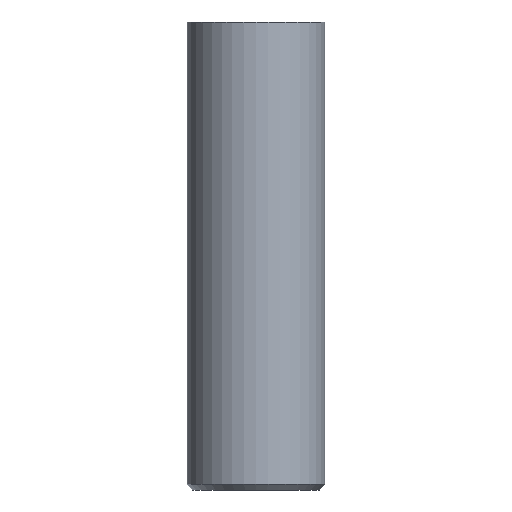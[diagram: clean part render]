
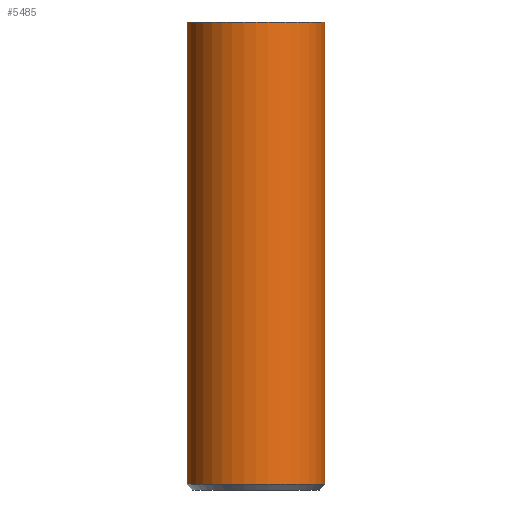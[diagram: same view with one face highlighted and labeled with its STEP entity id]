
A CAD part, front view. The second image highlights one B-rep face of the part: STEP entity #5485.
In plain terms, the highlighted cylindrical face has radius 2.5 mm (diameter 5 mm), a full revolution.
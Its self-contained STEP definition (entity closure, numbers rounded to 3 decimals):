
#783=CYLINDRICAL_SURFACE('',#5580,2.5);
#1073=FACE_OUTER_BOUND('',#1392,.T.);
#1392=EDGE_LOOP('',(#5131,#5132,#5133,#5134));
#1750=LINE('',#11625,#2114);
#2114=VECTOR('',#6079,2.5);
#2141=CIRCLE('',#5572,2.5);
#2143=CIRCLE('',#5579,2.5);
#2683=VERTEX_POINT('',#11612);
#2685=VERTEX_POINT('',#11621);
#3503=EDGE_CURVE('',#2683,#2683,#2141,.T.);
#3505=EDGE_CURVE('',#2685,#2685,#2143,.T.);
#3507=EDGE_CURVE('',#2683,#2685,#1750,.T.);
#5131=ORIENTED_EDGE('',*,*,#3503,.F.);
#5132=ORIENTED_EDGE('',*,*,#3507,.T.);
#5133=ORIENTED_EDGE('',*,*,#3505,.F.);
#5134=ORIENTED_EDGE('',*,*,#3507,.F.);
#5485=ADVANCED_FACE('',(#1073),#783,.T.);
#5572=AXIS2_PLACEMENT_3D('',#11613,#6060,#6061);
#5579=AXIS2_PLACEMENT_3D('',#11622,#6074,#6075);
#5580=AXIS2_PLACEMENT_3D('',#11624,#6077,#6078);
#6060=DIRECTION('center_axis',(0.,0.,1.));
#6061=DIRECTION('ref_axis',(1.,0.,0.));
#6074=DIRECTION('center_axis',(0.,0.,-1.));
#6075=DIRECTION('ref_axis',(1.,0.,0.));
#6077=DIRECTION('center_axis',(0.,0.,1.));
#6078=DIRECTION('ref_axis',(1.,0.,0.));
#6079=DIRECTION('',(0.,0.,-1.));
#11612=CARTESIAN_POINT('',(-2.5,0.,17.));
#11613=CARTESIAN_POINT('Origin',(0.,0.,17.));
#11621=CARTESIAN_POINT('',(-2.5,0.,0.2));
#11622=CARTESIAN_POINT('Origin',(0.,0.,0.2));
#11624=CARTESIAN_POINT('Origin',(0.,0.,0.));
#11625=CARTESIAN_POINT('',(-2.5,0.,0.));
